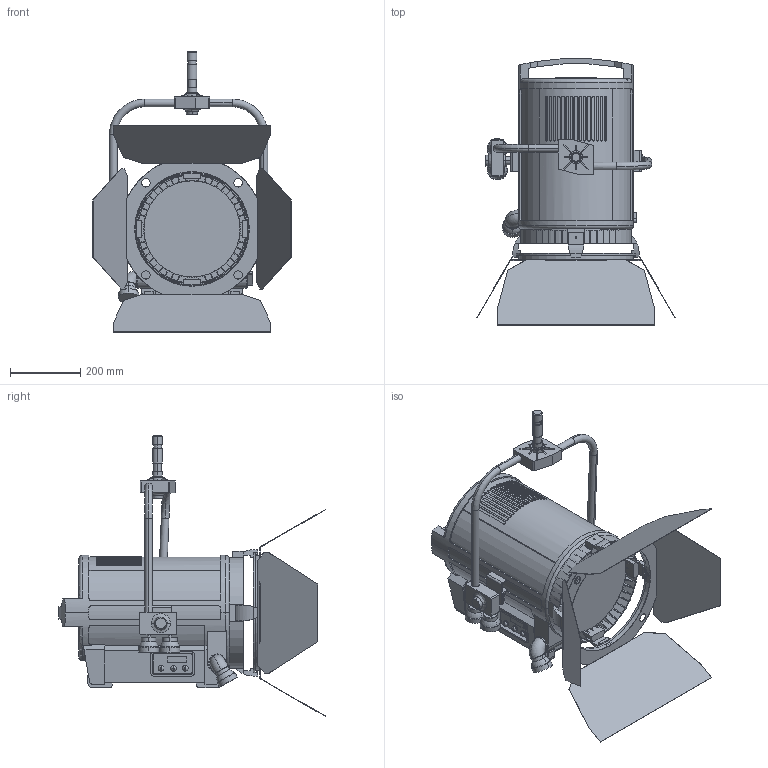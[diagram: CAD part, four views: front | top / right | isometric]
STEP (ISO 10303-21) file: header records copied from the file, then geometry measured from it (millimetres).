
FILE_DESCRIPTION (( 'STEP AP214' ), '1' );
FILE_NAME ('L10-PO-silber.STEP', '2015-08-17T11:46:50', ( '' ), ( '' ), 'SwSTEP 2.0', 'SolidWorks 2013', '' );
FILE_SCHEMA (( 'AUTOMOTIVE_DESIGN' ));
Length unit declared in the file: millimetre
Products named in the file (6): L10-PO-silber; L10_Gehaeuse_reduziert_L10 P.O.; L10_Buegellager_reduziert_L10 P.O.; L10_Linsengehaeuse_reduziert; L10_PO-Buegel_reduziert; L10_Fluegeltor_reduziert
Assembly tree (6 placements, depth 2):
  L10-PO-silber
    L10_Gehaeuse_reduziert_L10 P.O.
    L10_Buegellager_reduziert_L10 P.O.  x2
    L10_Linsengehaeuse_reduziert
    L10_PO-Buegel_reduziert
    L10_Fluegeltor_reduziert
Bounding box: 565 x 760.54 x 800.62 mm (x, y, z)
Volume: 43995308.5 mm3; surface area: 2657152.2 mm2
Topology: 6 solids, 6 shells, 1082 faces, 3002 edges, 1992 vertices
Faces by surface type: plane 729, cylinder 284, torus 27, cone 27, bspline 15
Entity records: 43881 total; most frequent: CARTESIAN_POINT 12556, ORIENTED_EDGE 5878, DIRECTION 5261, EDGE_CURVE 2939, LINE 2001, VECTOR 2001, VERTEX_POINT 1950, AXIS2_PLACEMENT_3D 1630
